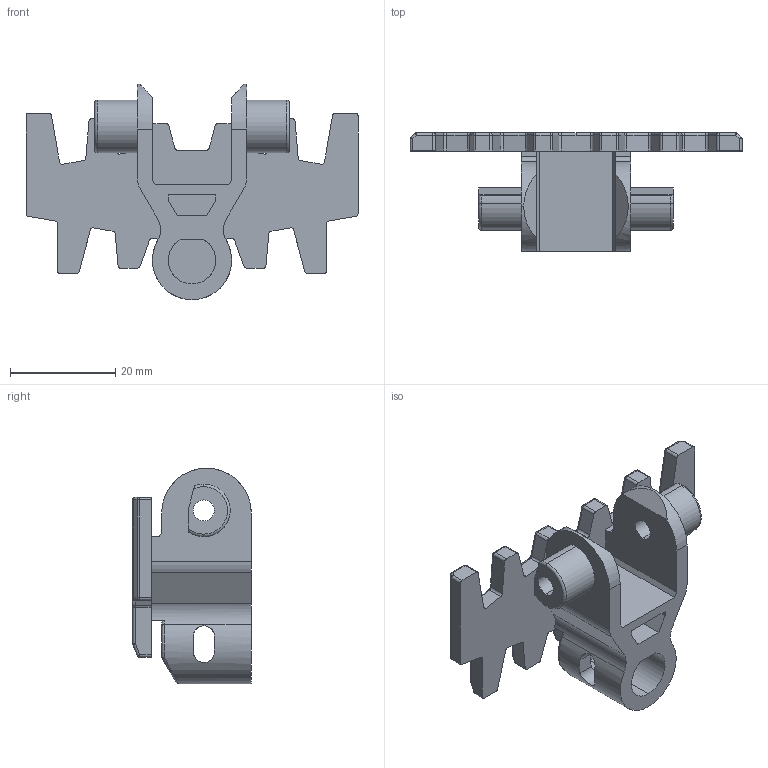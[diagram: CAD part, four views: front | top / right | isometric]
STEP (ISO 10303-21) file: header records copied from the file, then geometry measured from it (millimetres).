
FILE_DESCRIPTION (( 'STEP AP214' ), '1' );
FILE_NAME ('FSPC-5.STEP', '2011-09-28T11:36:34', ( '.' ), ( '' ), 'SwSTEP 2.0', 'SolidWorks 2010', '' );
FILE_SCHEMA (( 'AUTOMOTIVE_DESIGN' ));
Length unit declared in the file: millimetre
Products named in the file (1): FSPC-5
Bounding box: 63 x 22.5 x 40.9 mm (x, y, z)
Volume: 10672.2 mm3; surface area: 8043.1 mm2
Topology: 1 solids, 1 shells, 317 faces, 786 edges, 450 vertices
Faces by surface type: cylinder 151, plane 91, sphere 40, torus 34, bspline 1
Entity records: 9454 total; most frequent: CARTESIAN_POINT 1878, DIRECTION 1710, ORIENTED_EDGE 1520, EDGE_CURVE 760, AXIS2_PLACEMENT_3D 660, VERTEX_POINT 450, LINE 390, VECTOR 390
